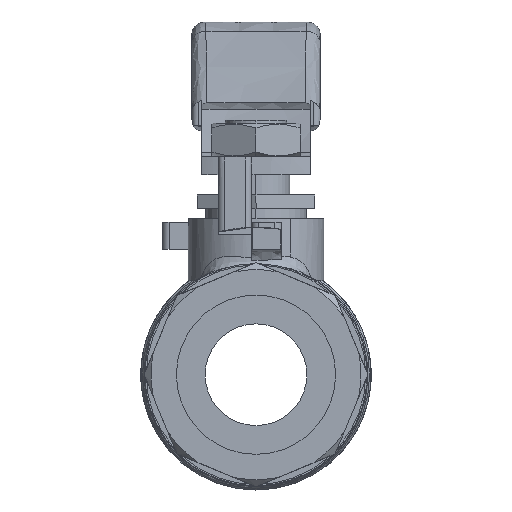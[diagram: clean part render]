
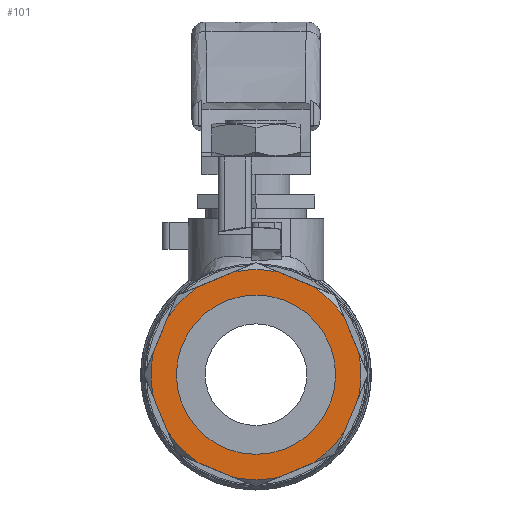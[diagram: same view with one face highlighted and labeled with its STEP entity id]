
A CAD part, left-side view. The second image highlights one B-rep face of the part: STEP entity #101.
In plain terms, the highlighted planar face has unit normal (-1, 0, 0).
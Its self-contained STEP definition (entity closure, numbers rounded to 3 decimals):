
#101=ADVANCED_FACE('',(#836,#837),#835,.F.);
#835=PLANE('',#2637);
#836=FACE_OUTER_BOUND('',#2638,.T.);
#837=FACE_BOUND('',#2639,.T.);
#2634=CARTESIAN_POINT('',(-28.,-19.022,19.022));
#2635=DIRECTION('',(1.,0.,0.));
#2636=DIRECTION('',(0.,0.,-1.));
#2637=AXIS2_PLACEMENT_3D('',#2634,#2635,#2636);
#2638=EDGE_LOOP('',(#3887,#3888,#3889,#3890,#3891,#3892,#3893,#3894,#3895,#3896,#3897,#3898,#3899,#3900,#3901,#3902));
#2639=EDGE_LOOP('',(#3903,#3904));
#3887=ORIENTED_EDGE('',*,*,#4621,.T.);
#3888=ORIENTED_EDGE('',*,*,#4768,.F.);
#3889=ORIENTED_EDGE('',*,*,#4769,.T.);
#3890=ORIENTED_EDGE('',*,*,#4628,.F.);
#3891=ORIENTED_EDGE('',*,*,#4770,.T.);
#3892=ORIENTED_EDGE('',*,*,#4771,.F.);
#3893=ORIENTED_EDGE('',*,*,#4772,.T.);
#3894=ORIENTED_EDGE('',*,*,#4773,.F.);
#3895=ORIENTED_EDGE('',*,*,#4774,.T.);
#3896=ORIENTED_EDGE('',*,*,#4775,.F.);
#3897=ORIENTED_EDGE('',*,*,#4776,.T.);
#3898=ORIENTED_EDGE('',*,*,#4777,.F.);
#3899=ORIENTED_EDGE('',*,*,#4778,.T.);
#3900=ORIENTED_EDGE('',*,*,#4779,.F.);
#3901=ORIENTED_EDGE('',*,*,#4780,.T.);
#3902=ORIENTED_EDGE('',*,*,#4781,.F.);
#3903=ORIENTED_EDGE('',*,*,#4782,.T.);
#3904=ORIENTED_EDGE('',*,*,#4783,.T.);
#4621=EDGE_CURVE('',#5618,#5626,#5633,.T.);
#4628=EDGE_CURVE('',#5675,#5682,#5683,.T.);
#4768=EDGE_CURVE('',#6616,#5626,#6617,.T.);
#4769=EDGE_CURVE('',#6616,#5682,#6623,.T.);
#4770=EDGE_CURVE('',#5675,#6629,#6630,.T.);
#4771=EDGE_CURVE('',#6636,#6629,#6637,.T.);
#4772=EDGE_CURVE('',#6636,#6643,#6644,.T.);
#4773=EDGE_CURVE('',#6650,#6643,#6651,.T.);
#4774=EDGE_CURVE('',#6650,#6657,#6658,.T.);
#4775=EDGE_CURVE('',#6664,#6657,#6665,.T.);
#4776=EDGE_CURVE('',#6664,#6671,#6672,.T.);
#4777=EDGE_CURVE('',#6678,#6671,#6679,.T.);
#4778=EDGE_CURVE('',#6678,#6685,#6686,.T.);
#4779=EDGE_CURVE('',#6692,#6685,#6693,.T.);
#4780=EDGE_CURVE('',#6692,#6699,#6700,.T.);
#4781=EDGE_CURVE('',#5618,#6699,#6706,.T.);
#4782=EDGE_CURVE('',#6712,#6713,#6714,.T.);
#4783=EDGE_CURVE('',#6713,#6712,#6720,.T.);
#5618=VERTEX_POINT('',#8714);
#5626=VERTEX_POINT('',#8720);
#5633=CIRCLE('',#8732,15.495);
#5675=VERTEX_POINT('',#8760);
#5682=VERTEX_POINT('',#8765);
#5683=LINE('',#8766,#8767);
#6616=VERTEX_POINT('',#9461);
#6617=LINE('',#9462,#9463);
#6623=CIRCLE('',#9468,15.495);
#6629=VERTEX_POINT('',#9469);
#6630=CIRCLE('',#9473,15.495);
#6636=VERTEX_POINT('',#9474);
#6637=LINE('',#9475,#9476);
#6643=VERTEX_POINT('',#9478);
#6644=CIRCLE('',#9482,15.495);
#6650=VERTEX_POINT('',#9483);
#6651=LINE('',#9484,#9485);
#6657=VERTEX_POINT('',#9487);
#6658=CIRCLE('',#9491,15.495);
#6664=VERTEX_POINT('',#9492);
#6665=LINE('',#9493,#9494);
#6671=VERTEX_POINT('',#9496);
#6672=CIRCLE('',#9500,15.495);
#6678=VERTEX_POINT('',#9501);
#6679=LINE('',#9502,#9503);
#6685=VERTEX_POINT('',#9505);
#6686=CIRCLE('',#9509,15.495);
#6692=VERTEX_POINT('',#9510);
#6693=LINE('',#9511,#9512);
#6699=VERTEX_POINT('',#9514);
#6700=CIRCLE('',#9518,15.495);
#6706=LINE('',#9519,#9520);
#6712=VERTEX_POINT('',#9522);
#6713=VERTEX_POINT('',#9523);
#6714=CIRCLE('',#9527,11.74);
#6720=CIRCLE('',#9531,11.74);
#8714=CARTESIAN_POINT('',(-28.,13.022,-8.397));
#8720=CARTESIAN_POINT('',(-28.,8.397,-13.022));
#8729=CARTESIAN_POINT('',(-28.,0.,0.));
#8730=DIRECTION('',(-1.,0.,0.));
#8731=DIRECTION('',(0.,0.,-1.));
#8732=AXIS2_PLACEMENT_3D('',#8729,#8730,#8731);
#8760=CARTESIAN_POINT('',(-28.,-8.397,-13.022));
#8765=CARTESIAN_POINT('',(-28.,-3.27,-15.146));
#8766=CARTESIAN_POINT('',(-28.,-8.397,-13.022));
#8767=VECTOR('',#8768,5.55);
#8768=DIRECTION('',(0.,0.924,-0.383));
#9461=CARTESIAN_POINT('',(-28.,3.27,-15.146));
#9462=CARTESIAN_POINT('',(-28.,3.27,-15.146));
#9463=VECTOR('',#9464,5.55);
#9464=DIRECTION('',(0.,0.924,0.383));
#9465=CARTESIAN_POINT('',(-28.,0.,0.));
#9466=DIRECTION('',(-1.,0.,0.));
#9467=DIRECTION('',(0.,0.211,-0.977));
#9468=AXIS2_PLACEMENT_3D('',#9465,#9466,#9467);
#9469=CARTESIAN_POINT('',(-28.,-13.022,-8.397));
#9470=CARTESIAN_POINT('',(-28.,0.,0.));
#9471=DIRECTION('',(-1.,0.,0.));
#9472=DIRECTION('',(0.,0.,-1.));
#9473=AXIS2_PLACEMENT_3D('',#9470,#9471,#9472);
#9474=CARTESIAN_POINT('',(-28.,-15.146,-3.27));
#9475=CARTESIAN_POINT('',(-28.,-15.146,-3.27));
#9476=VECTOR('',#9477,5.55);
#9477=DIRECTION('',(0.,0.383,-0.924));
#9478=CARTESIAN_POINT('',(-28.,-15.146,3.27));
#9479=CARTESIAN_POINT('',(-28.,0.,0.));
#9480=DIRECTION('',(-1.,0.,0.));
#9481=DIRECTION('',(0.,0.,-1.));
#9482=AXIS2_PLACEMENT_3D('',#9479,#9480,#9481);
#9483=CARTESIAN_POINT('',(-28.,-13.022,8.397));
#9484=CARTESIAN_POINT('',(-28.,-13.022,8.397));
#9485=VECTOR('',#9486,5.55);
#9486=DIRECTION('',(0.,-0.383,-0.924));
#9487=CARTESIAN_POINT('',(-28.,-8.397,13.022));
#9488=CARTESIAN_POINT('',(-28.,0.,0.));
#9489=DIRECTION('',(-1.,0.,0.));
#9490=DIRECTION('',(0.,0.,-1.));
#9491=AXIS2_PLACEMENT_3D('',#9488,#9489,#9490);
#9492=CARTESIAN_POINT('',(-28.,-3.27,15.146));
#9493=CARTESIAN_POINT('',(-28.,-3.27,15.146));
#9494=VECTOR('',#9495,5.55);
#9495=DIRECTION('',(0.,-0.924,-0.383));
#9496=CARTESIAN_POINT('',(-28.,3.27,15.146));
#9497=CARTESIAN_POINT('',(-28.,0.,0.));
#9498=DIRECTION('',(-1.,0.,0.));
#9499=DIRECTION('',(0.,0.,-1.));
#9500=AXIS2_PLACEMENT_3D('',#9497,#9498,#9499);
#9501=CARTESIAN_POINT('',(-28.,8.397,13.022));
#9502=CARTESIAN_POINT('',(-28.,8.397,13.022));
#9503=VECTOR('',#9504,5.55);
#9504=DIRECTION('',(0.,-0.924,0.383));
#9505=CARTESIAN_POINT('',(-28.,13.022,8.397));
#9506=CARTESIAN_POINT('',(-28.,0.,0.));
#9507=DIRECTION('',(-1.,0.,0.));
#9508=DIRECTION('',(0.,0.,-1.));
#9509=AXIS2_PLACEMENT_3D('',#9506,#9507,#9508);
#9510=CARTESIAN_POINT('',(-28.,15.146,3.27));
#9511=CARTESIAN_POINT('',(-28.,15.146,3.27));
#9512=VECTOR('',#9513,5.55);
#9513=DIRECTION('',(0.,-0.383,0.924));
#9514=CARTESIAN_POINT('',(-28.,15.146,-3.27));
#9515=CARTESIAN_POINT('',(-28.,0.,0.));
#9516=DIRECTION('',(-1.,0.,0.));
#9517=DIRECTION('',(0.,0.,-1.));
#9518=AXIS2_PLACEMENT_3D('',#9515,#9516,#9517);
#9519=CARTESIAN_POINT('',(-28.,13.022,-8.397));
#9520=VECTOR('',#9521,5.55);
#9521=DIRECTION('',(0.,0.383,0.924));
#9522=CARTESIAN_POINT('',(-28.,0.,11.74));
#9523=CARTESIAN_POINT('',(-28.,0.,-11.74));
#9524=CARTESIAN_POINT('',(-28.,0.,0.));
#9525=DIRECTION('',(1.,0.,0.));
#9526=DIRECTION('',(0.,0.,1.));
#9527=AXIS2_PLACEMENT_3D('',#9524,#9525,#9526);
#9528=CARTESIAN_POINT('',(-28.,0.,0.));
#9529=DIRECTION('',(1.,0.,0.));
#9530=DIRECTION('',(0.,0.,1.));
#9531=AXIS2_PLACEMENT_3D('',#9528,#9529,#9530);
